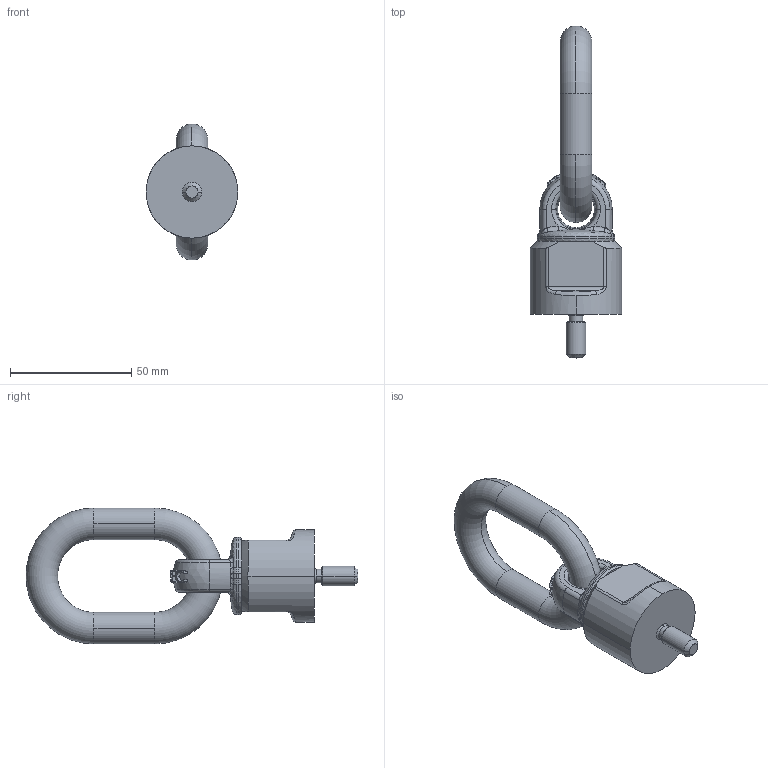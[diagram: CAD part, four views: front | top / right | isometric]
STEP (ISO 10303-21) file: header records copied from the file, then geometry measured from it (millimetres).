
FILE_DESCRIPTION(('STEP AP214'),'1');
FILE_NAME('c8000030818.stp','2017-03-22T14:11:04',('TraceParts'),('TraceParts S.A.'),'Spatial InterOp 3D',' ',' ');
FILE_SCHEMA(('automotive_design'));
Length unit declared in the file: millimetre
Products named in the file (3): c8000030818_1; c8000030818_2; c8000030818_3
Bounding box: 37.84 x 136.79 x 56 mm (x, y, z)
Volume: 64689.7 mm3; surface area: 17264.7 mm2
Topology: 3 solids, 3 shells, 225 faces, 596 edges, 383 vertices
Faces by surface type: bspline 71, plane 69, cylinder 34, torus 30, sphere 11, cone 10
Entity records: 11726 total; most frequent: CARTESIAN_POINT 4603, ORIENTED_EDGE 1192, DIRECTION 1015, EDGE_CURVE 596, AXIS2_PLACEMENT_3D 432, VERTEX_POINT 383, CIRCLE 259, EDGE_LOOP 235
